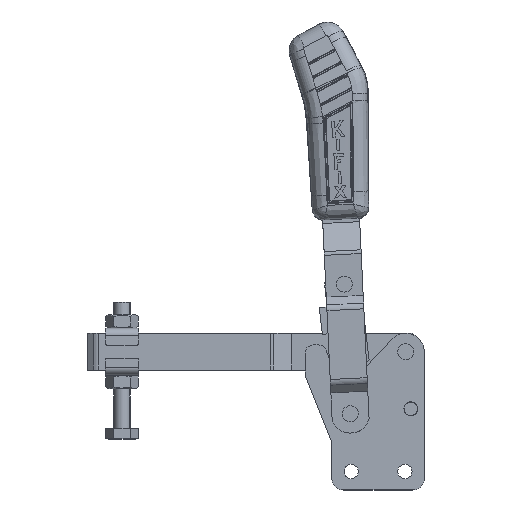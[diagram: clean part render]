
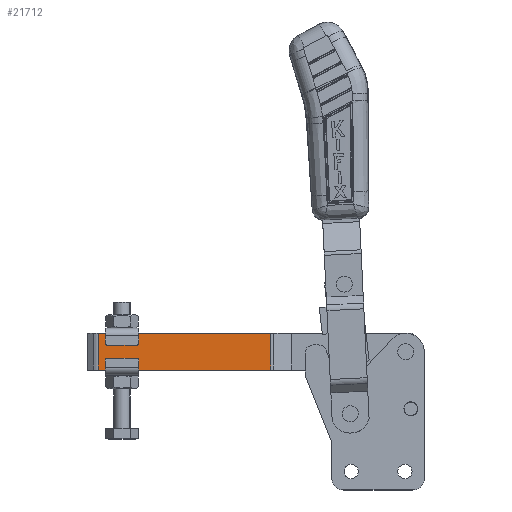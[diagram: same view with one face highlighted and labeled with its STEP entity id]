
A CAD part, top view. The second image highlights one B-rep face of the part: STEP entity #21712.
In plain terms, the highlighted planar face has unit normal (0, 0, 1) as drawn and (0, 1, 0) by its records, which use the part's own axes.
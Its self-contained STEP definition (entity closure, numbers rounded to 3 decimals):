
#939 = VECTOR ( 'NONE', #22536, 1000. ) ;
#1043 = CARTESIAN_POINT ( 'NONE',  ( -6.004, 0., 11. ) ) ;
#2160 = EDGE_CURVE ( 'NONE', #4226, #18166, #15798, .T. ) ;
#2918 = ORIENTED_EDGE ( 'NONE', *, *, #15433, .T. ) ;
#3047 = CARTESIAN_POINT ( 'NONE',  ( -6.004, 0., -11. ) ) ;
#3071 = DIRECTION ( 'NONE',  ( 0., 0., 1. ) ) ;
#3450 = DIRECTION ( 'NONE',  ( 0., 0., 1. ) ) ;
#4175 = EDGE_CURVE ( 'NONE', #19888, #4226, #17503, .T. ) ;
#4226 = VERTEX_POINT ( 'NONE', #10275 ) ;
#4407 = FACE_OUTER_BOUND ( 'NONE', #19269, .T. ) ;
#4874 = CARTESIAN_POINT ( 'NONE',  ( -109.5, 0., 11. ) ) ;
#5394 = ORIENTED_EDGE ( 'NONE', *, *, #4175, .F. ) ;
#10275 = CARTESIAN_POINT ( 'NONE',  ( -108.456, 0., -11. ) ) ;
#10772 = VECTOR ( 'NONE', #21911, 1000. ) ;
#11003 = LINE ( 'NONE', #16742, #939 ) ;
#11282 = CARTESIAN_POINT ( 'NONE',  ( -108.456, 0., 11. ) ) ;
#11334 = ORIENTED_EDGE ( 'NONE', *, *, #16807, .F. ) ;
#11511 = DIRECTION ( 'NONE',  ( 0., 0., -1. ) ) ;
#11746 = VERTEX_POINT ( 'NONE', #1043 ) ;
#12484 = VECTOR ( 'NONE', #11511, 1000. ) ;
#12747 = LINE ( 'NONE', #22572, #22283 ) ;
#13148 = ORIENTED_EDGE ( 'NONE', *, *, #2160, .F. ) ;
#14422 = DIRECTION ( 'NONE',  ( 0., 1., 0. ) ) ;
#15433 = EDGE_CURVE ( 'NONE', #19888, #11746, #11003, .T. ) ;
#15798 = LINE ( 'NONE', #21604, #10772 ) ;
#16742 = CARTESIAN_POINT ( 'NONE',  ( -109.5, 0., 11. ) ) ;
#16807 = EDGE_CURVE ( 'NONE', #18166, #11746, #12747, .T. ) ;
#17503 = LINE ( 'NONE', #11282, #12484 ) ;
#17577 = CARTESIAN_POINT ( 'NONE',  ( -108.456, 0., 11. ) ) ;
#18166 = VERTEX_POINT ( 'NONE', #3047 ) ;
#19269 = EDGE_LOOP ( 'NONE', ( #11334, #13148, #5394, #2918 ) ) ;
#19888 = VERTEX_POINT ( 'NONE', #17577 ) ;
#21604 = CARTESIAN_POINT ( 'NONE',  ( -109.5, 0., -11. ) ) ;
#21712 = ADVANCED_FACE ( 'NONE', ( #4407 ), #21947, .T. ) ;
#21911 = DIRECTION ( 'NONE',  ( 1., 0., 0. ) ) ;
#21947 = PLANE ( 'NONE',  #22314 ) ;
#22283 = VECTOR ( 'NONE', #3450, 1000. ) ;
#22314 = AXIS2_PLACEMENT_3D ( 'NONE', #4874, #14422, #3071 ) ;
#22536 = DIRECTION ( 'NONE',  ( 1., 0., 0. ) ) ;
#22572 = CARTESIAN_POINT ( 'NONE',  ( -6.004, 0., 11. ) ) ;
